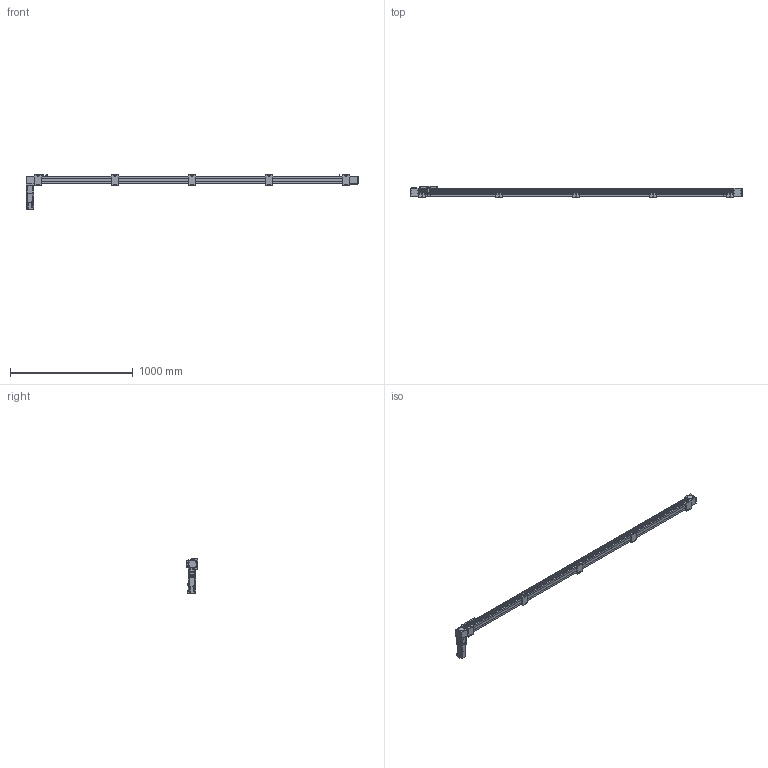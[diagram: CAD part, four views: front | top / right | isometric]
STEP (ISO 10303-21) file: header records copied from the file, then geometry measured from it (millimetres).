
FILE_DESCRIPTION(/* description */ ('STEP AP214'),/* implementation_level */ '2;1');
FILE_NAME(/* name */ 'SK60-P13-S2400-BR-T40-C1-N(0)',/* time_stamp */ '2023-04-06T04:03:01+02:00',/* author */ ('License CC BY-ND 4.0'),/* organization */ ('CADENAS'),/* preprocessor_version */ 'ST-DEVELOPER v19.3',/* originating_system */ 'PARTsolutions',/* authorisation */ ' ');
FILE_SCHEMA (('AUTOMOTIVE_DESIGN {1 0 10303 214 3 1 1}'));
Length unit declared in the file: millimetre
Products named in the file (11): SK60-P13-S2400-BR-T40-C1-N(0); PSC140-sensor; SK60-S450_seat; SK60-S450-BL-C1_slider; SK60_body3; SK60_body6; SK60-BL_body2; T40-p1; SK60_body5; SK60_body4; SK60-S2400-BR-C1_body
Assembly tree (20 placements, depth 2):
  SK60-P13-S2400-BR-T40-C1-N(0)
    PSC140-sensor  x3
    SK60-S450_seat  x5
    SK60-S450-BL-C1_slider
    SK60_body3  x3
    SK60_body6  x2
    SK60-BL_body2  x2
    T40-p1
    SK60_body5
    SK60_body4
    SK60-S2400-BR-C1_body
Bounding box: 2700 x 90 x 279.1 mm (x, y, z)
Volume: 9757356.5 mm3; surface area: 1193038.4 mm2
Topology: 20 solids, 24 shells, 966 faces, 2403 edges, 1586 vertices
Faces by surface type: plane 616, cylinder 314, cone 34, torus 2
Full cylindrical faces by diameter (mm): 2.8 x3, 3.3 x4, 4.2 x8, 4.5 x26, 4.6 x3, 4.917 x28, 5 x2, 5.478 x4, 5.5 x31, 6.5 x10, 8 x4, 8.5 x4, 9.988 x4, 10 x20, 13.556 x1, 14 x1, 14.586 x1, 19.692 x1, 38.432 x2, 43 x1, 44 x3, 47 x2, 50 x2
Entity records: 19395 total; most frequent: DIRECTION 3298, CARTESIAN_POINT 3292, ORIENTED_EDGE 3050, EDGE_CURVE 1525, AXIS2_PLACEMENT_3D 1103, LINE 1092, VECTOR 1092, VERTEX_POINT 1077
